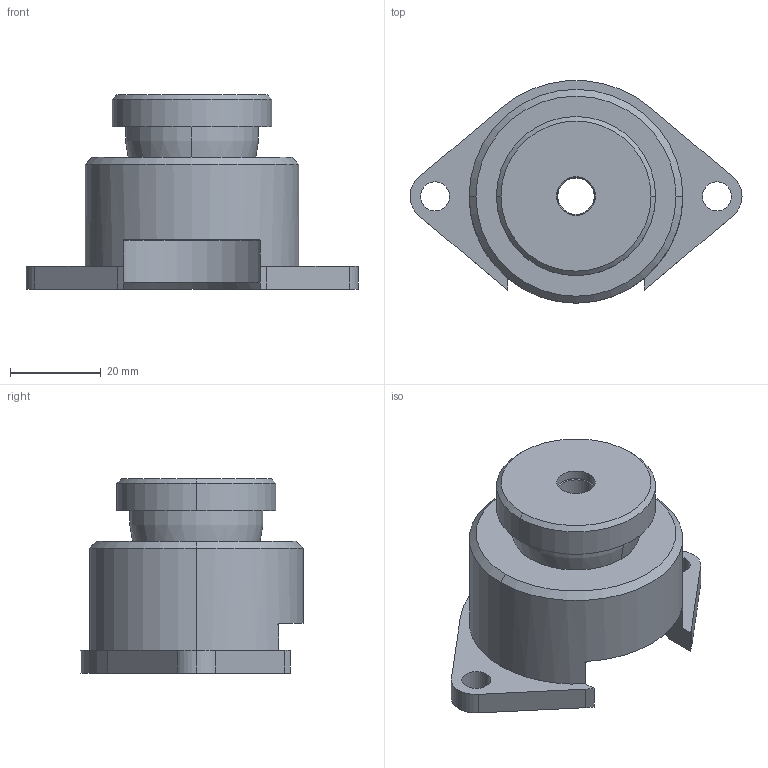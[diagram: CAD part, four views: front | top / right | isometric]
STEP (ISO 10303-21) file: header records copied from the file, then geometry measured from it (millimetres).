
FILE_DESCRIPTION(('STEP AP214'),'1');
FILE_NAME('C:/Transfer Dokumente/EluFlex_050_ZDUM_290726.stp','2026-07-29T15:26:01',(' '),(' '),'Spatial InterOp 3D',' ',' ');
FILE_SCHEMA(('automotive_design'));
Length unit declared in the file: millimetre
Products named in the file (1): 1
Bounding box: 73 x 48.92 x 42.75 mm (x, y, z)
Volume: 41496.8 mm3; surface area: 17165.1 mm2
Topology: 1 solids, 2 shells, 81 faces, 200 edges, 129 vertices
Faces by surface type: cylinder 33, cone 21, plane 19, torus 8
Entity records: 2525 total; most frequent: DIRECTION 476, CARTESIAN_POINT 473, ORIENTED_EDGE 400, AXIS2_PLACEMENT_3D 200, EDGE_CURVE 200, VERTEX_POINT 129, CIRCLE 118, EDGE_LOOP 95
